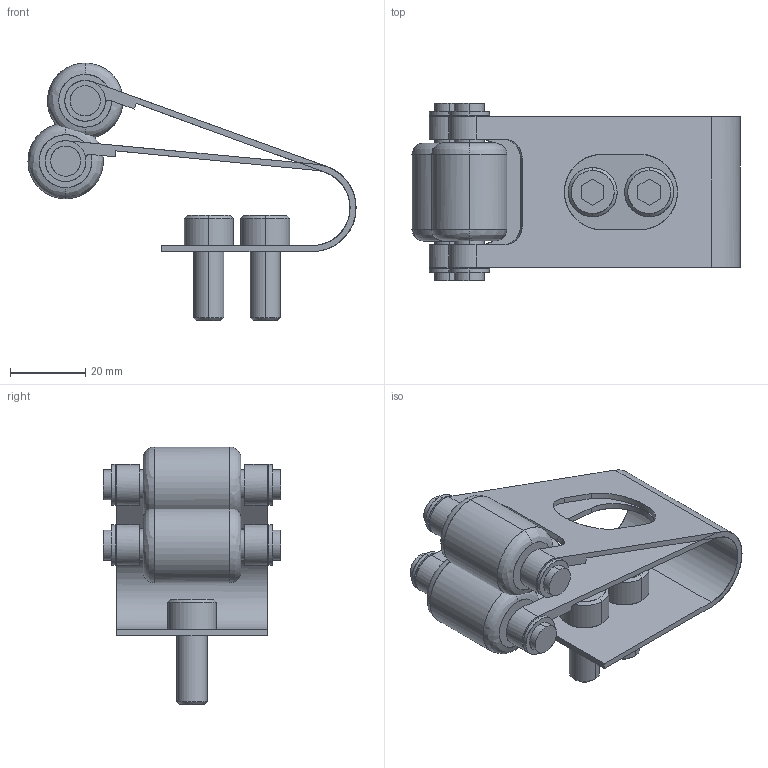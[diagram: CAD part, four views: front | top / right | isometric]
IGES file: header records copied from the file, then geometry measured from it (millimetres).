
Global section: file name: E:\UnigraphicsGraphicData\MISUMI_PRESS-PARTS\IGES\3d_zorwhp_01836_r00.igs; native system: NX V5.0; preprocessor: UGS NX IGES V5.0; author: MISUMI; date: 20110105.163521; units: millimetre
Bounding box: 87.07 x 47 x 68.4 mm (x, y, z)
Surface area: 31230.2 mm2 (no closed solid volume)
Topology: 0 solids, 0 shells, 150 faces, 1128 edges, 1128 vertices
Faces by surface type: bspline 150
